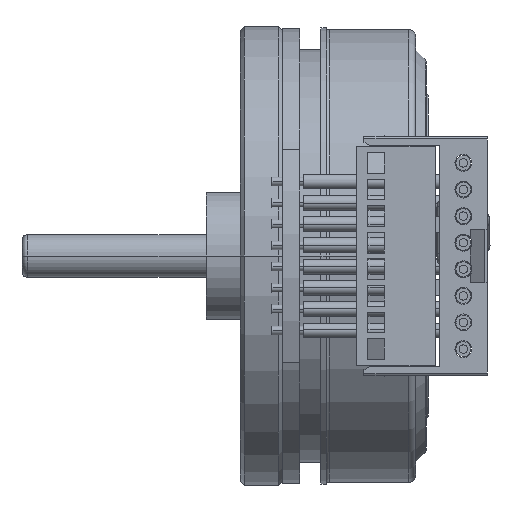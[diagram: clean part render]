
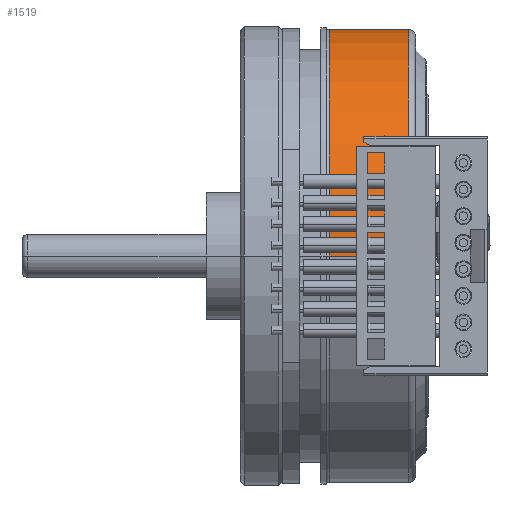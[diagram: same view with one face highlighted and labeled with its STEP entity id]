
A CAD part, front view. The second image highlights one B-rep face of the part: STEP entity #1519.
In plain terms, the highlighted cylindrical face has radius 21.3 mm (diameter 42.6 mm), a partial arc.
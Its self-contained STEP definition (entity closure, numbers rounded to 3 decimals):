
#273=CARTESIAN_POINT('',(15.85,0.,0.));
#274=DIRECTION('',(1.,0.,0.));
#275=DIRECTION('',(0.,1.,0.));
#276=AXIS2_PLACEMENT_3D('',#273,#274,#275);
#281=DIRECTION('',(-1.,0.,0.));
#282=VECTOR('',#281,7.475);
#283=CARTESIAN_POINT('',(15.85,21.3,0.));
#284=LINE('',#283,#282);
#288=DIRECTION('',(-1.,0.,0.));
#289=VECTOR('',#288,7.475);
#290=CARTESIAN_POINT('',(15.85,-21.3,0.));
#291=LINE('',#290,#289);
#327=CARTESIAN_POINT('',(8.375,0.,0.));
#328=DIRECTION('',(1.,0.,0.));
#329=DIRECTION('',(0.,1.,0.));
#330=AXIS2_PLACEMENT_3D('',#327,#328,#329);
#1289=CARTESIAN_POINT('',(15.85,21.3,0.));
#1290=VERTEX_POINT('',#1289);
#1291=CARTESIAN_POINT('',(8.375,21.3,0.));
#1292=VERTEX_POINT('',#1291);
#1315=CARTESIAN_POINT('',(15.85,-21.3,0.));
#1316=VERTEX_POINT('',#1315);
#1317=CARTESIAN_POINT('',(8.375,-21.3,0.));
#1318=VERTEX_POINT('',#1317);
#1505=CARTESIAN_POINT('',(-20.5,0.,0.));
#1506=DIRECTION('',(1.,0.,0.));
#1507=DIRECTION('',(0.,-1.,0.));
#1508=AXIS2_PLACEMENT_3D('',#1505,#1506,#1507);
#1509=CYLINDRICAL_SURFACE('',#1508,21.3);
#1511=ORIENTED_EDGE('',*,*,#1510,.F.);
#1512=ORIENTED_EDGE('',*,*,#1500,.T.);
#1514=ORIENTED_EDGE('',*,*,#1513,.T.);
#1516=ORIENTED_EDGE('',*,*,#1515,.F.);
#1517=EDGE_LOOP('',(#1511,#1512,#1514,#1516));
#1518=FACE_OUTER_BOUND('',#1517,.F.);
#1519=ADVANCED_FACE('',(#1518),#1509,.T.);
#277=CIRCLE('',#276,21.3);
#331=CIRCLE('',#330,21.3);
#1500=EDGE_CURVE('',#1290,#1316,#277,.T.);
#1510=EDGE_CURVE('',#1290,#1292,#284,.T.);
#1513=EDGE_CURVE('',#1316,#1318,#291,.T.);
#1515=EDGE_CURVE('',#1292,#1318,#331,.T.);
